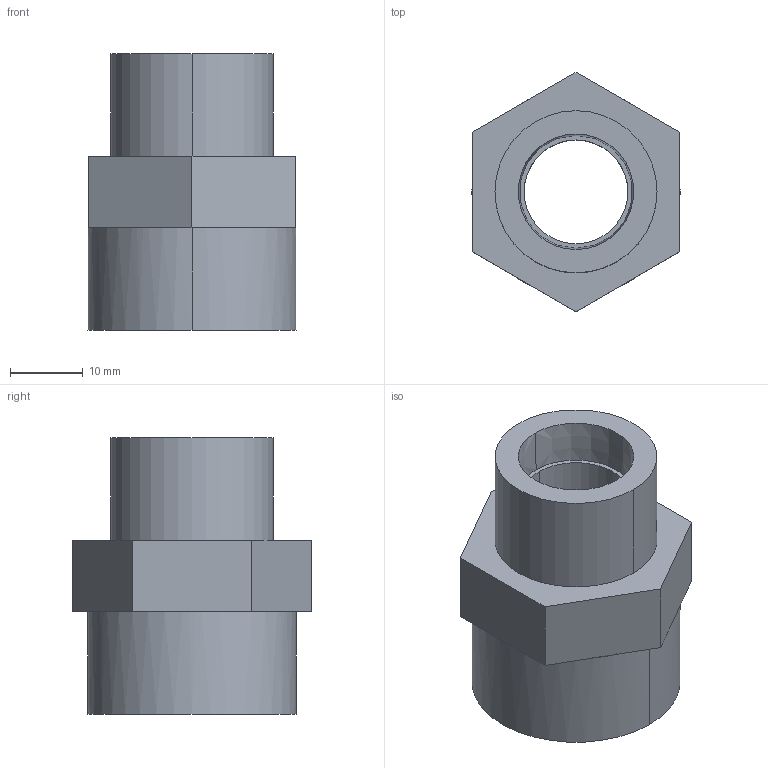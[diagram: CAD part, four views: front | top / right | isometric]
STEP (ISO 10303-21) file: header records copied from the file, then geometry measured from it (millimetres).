
FILE_DESCRIPTION((''),'2;1');
FILE_NAME('1-2_X_3-8_GG-S','2011-06-29T',('chad.steele'),(''),'PRO/ENGINEER BY PARAMETRIC TECHNOLOGY CORPORATION, 2010040','PRO/ENGINEER BY PARAMETRIC TECHNOLOGY CORPORATION, 2010040','');
FILE_SCHEMA(('CONFIG_CONTROL_DESIGN'));
Length unit declared in the file: inch
Products named in the file (1): 1-2_X_3-8_GG-S
Bounding box: 28.7 x 33 x 38.1 mm (x, y, z)
Volume: 14205.1 mm3; surface area: 6183.8 mm2
Topology: 1 solids, 1 shells, 33 faces, 84 edges, 56 vertices
Faces by surface type: plane 23, cylinder 6, cone 4
Entity records: 1062 total; most frequent: DIRECTION 190, CARTESIAN_POINT 173, ORIENTED_EDGE 168, EDGE_CURVE 84, AXIS2_PLACEMENT_3D 73, VERTEX_POINT 56, VECTOR 44, LINE 44
